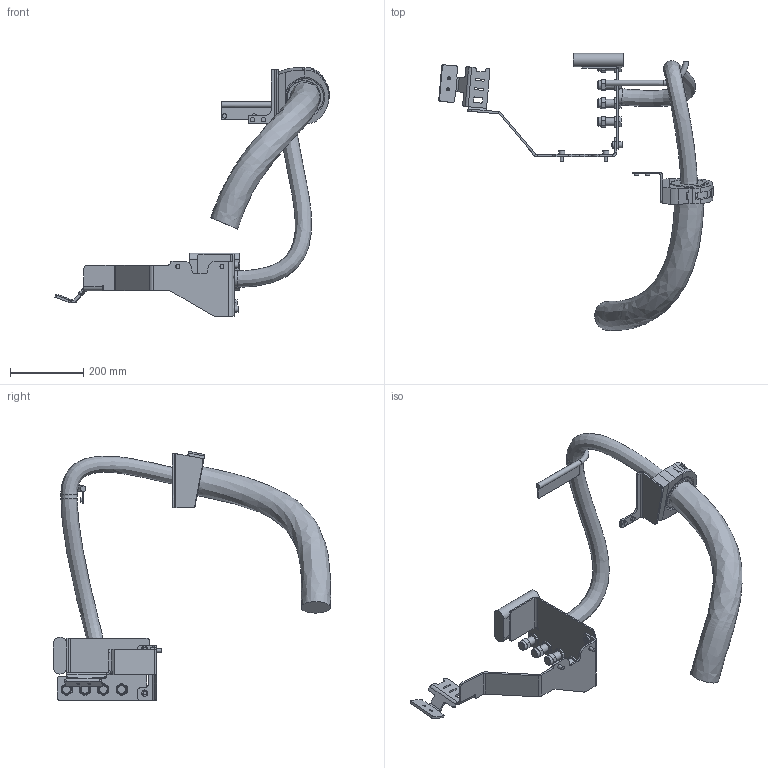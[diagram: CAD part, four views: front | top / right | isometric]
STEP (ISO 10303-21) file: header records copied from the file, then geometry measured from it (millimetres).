
FILE_DESCRIPTION (( 'STEP AP203' ), '1' );
FILE_NAME ('IRB6730S-LID-SW_ALL-OC_00_LINK03a_CABLE.step', '2025-12-19T13:39:48', ( '' ), ( '' ), 'SwSTEP 2.0', 'SolidWorks 2024', '' );
FILE_SCHEMA (( 'CONFIG_CONTROL_DESIGN' ));
Length unit declared in the file: millimetre
Products named in the file (1): IRB6730S-LID-SW_ALL-OC_00_LINK03a_CABLE
Bounding box: 747.03 x 754.74 x 677.77 mm (x, y, z)
Volume: 6487544.7 mm3; surface area: 677869.4 mm2
Topology: 1 solids, 6 shells, 510 faces, 1240 edges, 799 vertices
Faces by surface type: plane 344, cylinder 133, cone 14, bspline 9, torus 5, sphere 5
Full cylindrical faces by diameter (mm): 6 x2, 6.8 x2, 9.8 x4, 10 x4, 10.22 x2, 11 x2, 12 x4, 15 x1, 16.27 x4, 17.2 x4, 17.321 x2, 20 x4, 21 x4, 22 x4, 45 x1, 90 x1
Entity records: 18309 total; most frequent: CARTESIAN_POINT 6654, DIRECTION 2407, ORIENTED_EDGE 2268, EDGE_CURVE 1134, AXIS2_PLACEMENT_3D 837, VERTEX_POINT 759, VECTOR 733, LINE 733
